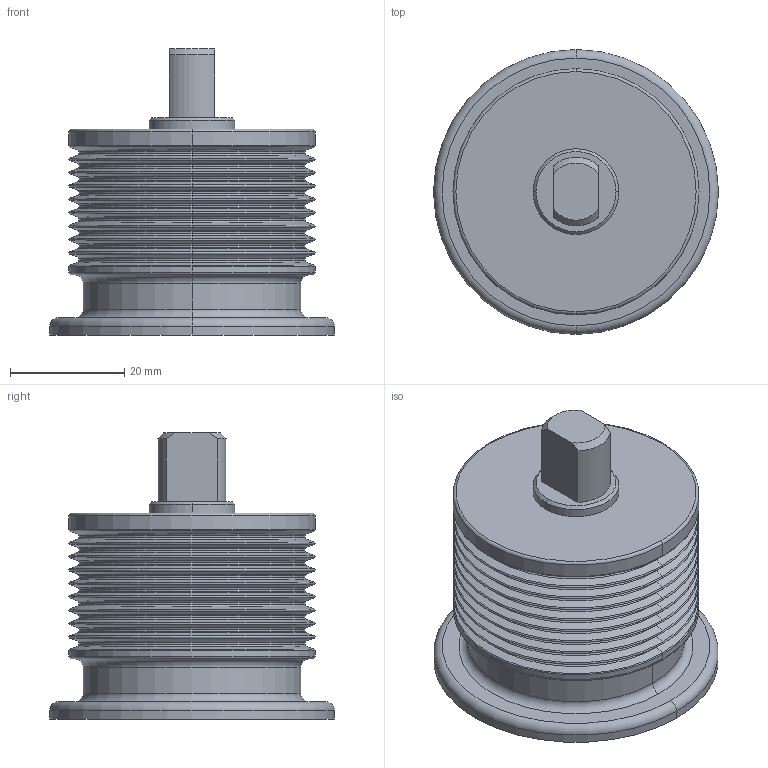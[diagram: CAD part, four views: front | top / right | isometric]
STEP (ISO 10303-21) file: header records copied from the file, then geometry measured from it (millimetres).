
FILE_DESCRIPTION (( 'STEP AP203' ), '1' );
FILE_NAME ('Žæ•t‘¤VRP500.STEP', '2022-05-30T00:49:14', ( '' ), ( '' ), 'SwSTEP 2.0', 'SolidWorks 2017', '' );
FILE_SCHEMA (( 'CONFIG_CONTROL_DESIGN' ));
Length unit declared in the file: millimetre
Products named in the file (1): 取付側VRP500
Bounding box: 49.8 x 49.8 x 50 mm (x, y, z)
Volume: 49894.4 mm3; surface area: 12033.2 mm2
Topology: 1 solids, 1 shells, 144 faces, 290 edges, 152 vertices
Faces by surface type: torus 66, cone 40, cylinder 30, plane 8
Entity records: 3795 total; most frequent: DIRECTION 788, CARTESIAN_POINT 599, ORIENTED_EDGE 580, AXIS2_PLACEMENT_3D 357, EDGE_CURVE 290, CIRCLE 212, VERTEX_POINT 152, EDGE_LOOP 148
